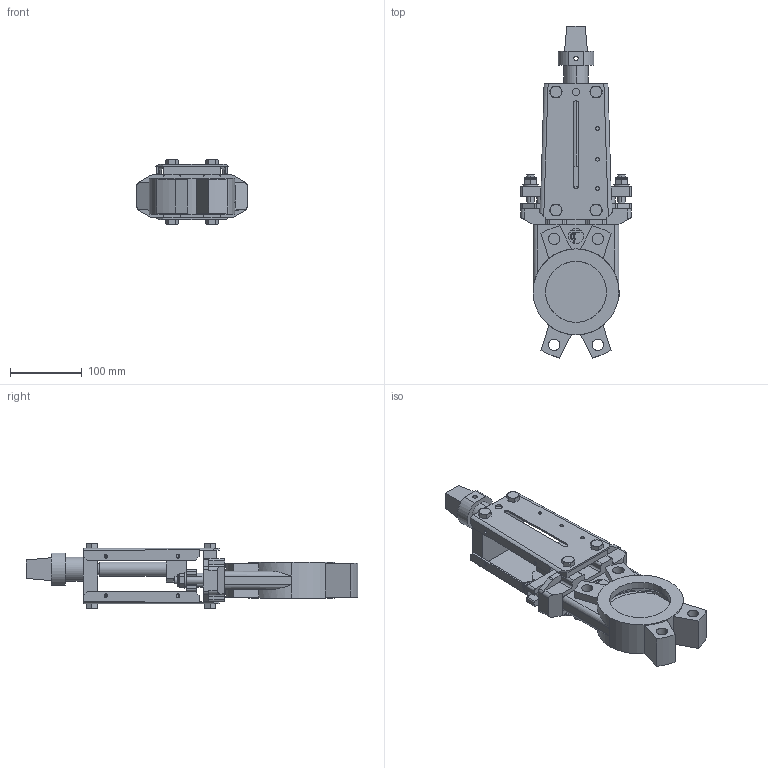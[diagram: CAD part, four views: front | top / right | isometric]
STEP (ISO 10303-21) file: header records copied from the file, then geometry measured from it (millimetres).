
FILE_DESCRIPTION (( 'STEP AP203' ), '1' );
FILE_NAME ('VG S N DN80.STEP', '2010-05-04T07:01:18', ( 'farex' ), ( '' ), 'SwSTEP 2.0', 'SolidWorks 2009', '' );
FILE_SCHEMA (( 'CONFIG_CONTROL_DESIGN' ));
Length unit declared in the file: millimetre
Products named in the file (1): VG S N DN80
Bounding box: 154 x 463.17 x 89.8 mm (x, y, z)
Volume: 1263377.4 mm3; surface area: 279703.8 mm2
Topology: 1 solids, 6 shells, 643 faces, 1691 edges, 1102 vertices
Faces by surface type: plane 334, cylinder 186, cone 73, bspline 42, torus 8
Entity records: 22654 total; most frequent: CARTESIAN_POINT 6816, ORIENTED_EDGE 3382, DIRECTION 3107, EDGE_CURVE 1691, VERTEX_POINT 1102, AXIS2_PLACEMENT_3D 1063, VECTOR 981, LINE 981
